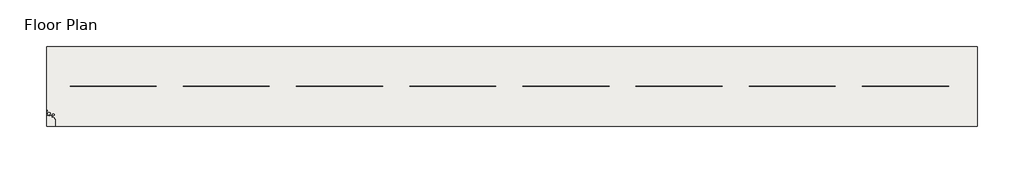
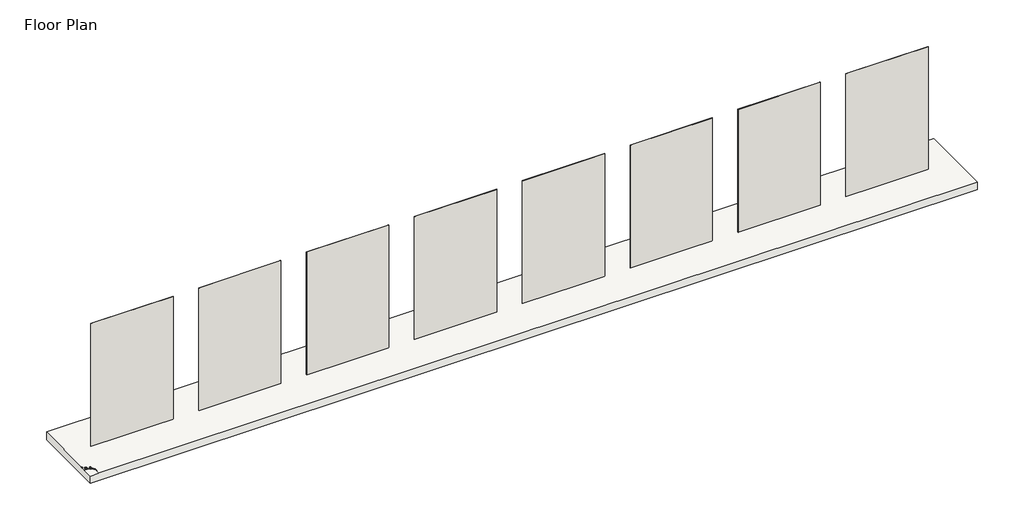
# One storey, incomplete: 8 walls, 1 slab.
"""IFC4 building model written with IfcOpenShell, lengths in millimetres."""

from ifc_helpers import new_model, si_unit, origin, origin_with_axes, place, context, project, spatial, polyline, outline, extrude, faceted_brep, element, save

model = new_model("IFC4")

# Units and contexts
model_context = context("Model", 3, world=origin())
ifc_project = project(units=[si_unit("LENGTHUNIT", "METRE", prefix="MILLI")], contexts=[model_context])

# Site, building, storey
site = spatial("IfcSite", under=ifc_project)
building = spatial("IfcBuilding", under=site)
storey = spatial("IfcBuildingStorey", under=building, Name="Floor Plan", Elevation=0.0)

# Slab
placement = place(None, origin())
element("IfcSlab", 1, ObjectType="Floor 1", at=placement, inside=storey, context=model_context, shape_type="Brep", body=[
    faceted_brep([(133869.564463, -1405.268292, -300.0), (100969.564463, -1405.268292, -300.0), (100969.564463, 1405.268292, -300.0), (133869.564463, 1405.268292, -300.0), (133869.564463, 1405.268292, 0.0), (100969.564463, 1405.268292, 0.0), (100969.564463, -838.8208533, 0.0), (100973.1211266, -836.7674126, 0.0), (101003.8301292, -854.4972635, 0.0), (101003.8301292, -887.6294851, 0.0), (100973.1211266, -905.3593361, 0.0), (100969.564463, -903.3058954, 0.0), (100969.564463, -1029.5470898, 0.0), (100979.1972272, -1035.1085689, 0.0), (101015.3908374, -1014.2121783, 0.0), (101062.4046401, -1041.3556099, 0.0), (101108.4091656, -1014.7948848, 0.0), (101167.6401701, -1048.9919211, 0.0), (101167.6401701, -1095.6301509, 0.0), (101196.9088101, -1078.7318937, 0.0), (101251.5578344, -1110.2835225, 0.0), (101251.5578344, -1149.3943664, 0.0), (101286.1988505, -1169.3943664, 0.0), (101286.1988505, -1405.268292, 0.0), (133869.564463, -1405.268292, 0.0), (101052.4226577, -913.8797767, 0.0), (101098.7748127, -940.6412058, 0.0), (101098.7748127, -995.8128392, 0.0), (101052.4226577, -1022.5742684, 0.0), (101006.0705027, -995.8128392, 0.0), (101006.0705027, -940.6412058, 0.0), (101202.5290945, -971.7658751, 0.0), (101233.3339718, -989.5510793, 0.0), (101233.3339718, -1022.1588741, 0.0), (101202.5290945, -1039.9440783, 0.0), (101171.7242172, -1022.1588741, 0.0), (101171.7242172, -989.5510793, 0.0), (101286.1988505, -1405.268292, -25.0), (100969.564463, -1405.268292, -25.0), (100969.564463, -1029.5470898, -25.0), (100969.564463, -903.3058954, -25.0), (100969.564463, -838.8208533, -25.0), (101286.1988505, -1169.3943664, -25.0), (101251.5578344, -1149.3943664, -25.0), (101251.5578344, -1110.2835225, -25.0), (101196.9088101, -1078.7318937, -25.0), (101167.6401701, -1095.6301509, -25.0), (101167.6401701, -1048.9919211, -25.0), (101108.4091656, -1014.7948848, -25.0), (101062.4046401, -1041.3556099, -25.0), (101015.3908374, -1014.2121783, -25.0), (100979.1972272, -1035.1085689, -25.0), (101098.7748127, -940.6412058, -25.0), (101052.4226577, -913.8797767, -25.0), (101006.0705027, -940.6412058, -25.0), (101006.0705027, -995.8128392, -25.0), (101052.4226577, -1022.5742684, -25.0), (101098.7748127, -995.8128392, -25.0), (101003.8301292, -854.4972635, -25.0), (100973.1211266, -836.7674126, -25.0), (100973.1211266, -905.3593361, -25.0), (101003.8301292, -887.6294851, -25.0), (101233.3339718, -989.5510793, -25.0), (101202.5290945, -971.7658751, -25.0), (101171.7242172, -989.5510793, -25.0), (101171.7242172, -1022.1588741, -25.0), (101202.5290945, -1039.9440783, -25.0), (101233.3339718, -1022.1588741, -25.0)], [[[0, 1, 2, 3]], [[4, 5, 6, 7, 8, 9, 10, 11, 12, 13, 14, 15, 16, 17, 18, 19, 20, 21, 22, 23, 24], [25, 26, 27, 28, 29, 30], [31, 32, 33, 34, 35, 36]], [[1, 0, 24, 23, 37, 38]], [[2, 1, 38, 39, 12, 11, 40, 41, 6, 5]], [[3, 2, 5, 4]], [[42, 43, 44, 45, 46, 47, 48, 49, 50, 51, 39, 38, 37]], [[52, 53, 54, 55, 56, 57]], [[58, 59, 41, 40, 60, 61]], [[62, 63, 64, 65, 66, 67]], [[42, 37, 23, 22]], [[43, 42, 22, 21]], [[44, 43, 21, 20]], [[45, 44, 20, 19]], [[46, 45, 19, 18]], [[47, 46, 18, 17]], [[48, 47, 17, 16]], [[49, 48, 16, 15]], [[50, 49, 15, 14]], [[51, 50, 14, 13]], [[39, 51, 13, 12]], [[53, 52, 26, 25]], [[54, 53, 25, 30]], [[55, 54, 30, 29]], [[56, 55, 29, 28]], [[57, 56, 28, 27]], [[52, 57, 27, 26]], [[59, 58, 8, 7]], [[41, 59, 7, 6]], [[60, 40, 11, 10]], [[61, 60, 10, 9]], [[58, 61, 9, 8]], [[63, 62, 32, 31]], [[64, 63, 31, 36]], [[65, 64, 36, 35]], [[66, 65, 35, 34]], [[67, 66, 34, 33]], [[62, 67, 33, 32]], [[0, 3, 4, 24]]]),
])

# Walls
element("IfcWall", 2, ObjectType="Cemintel Commercial ExpressPanel 9mm x 900mm x 1800mm", at=placement, inside=storey, context=model_context, shape_type="SweptSolid", body=[
    extrude(outline(polyline([(104848.0, -4.5), (101800.0, -4.5), (101800.0, 4.5), (104848.0, 4.5), (104848.0, -4.5)])), origin_with_axes(), (0.0, 0.0, 1.0), 4820.0),
])
element("IfcWall", 3, ObjectType="Cemintel Commercial ExpressPanel 9mm x 900mm x 2400mm", at=placement, inside=storey, context=model_context, shape_type="SweptSolid", body=[
    extrude(outline(polyline([(108848.0, -4.5), (105800.0, -4.5), (105800.0, 4.5), (108848.0, 4.5), (108848.0, -4.5)])), origin_with_axes(), (0.0, 0.0, 1.0), 4820.0),
])
element("IfcWall", 4, ObjectType="Cemintel Commercial ExpressPanel  9mm x 900mm x 3000mm", at=placement, inside=storey, context=model_context, shape_type="SweptSolid", body=[
    extrude(outline(polyline([(112848.0, -4.5), (109800.0, -4.5), (109800.0, 4.5), (112848.0, 4.5), (112848.0, -4.5)])), origin_with_axes(), (0.0, 0.0, 1.0), 4820.0),
])
element("IfcWall", 5, ObjectType="Cemintel Commercial ExpressPanel 9mm x 1200mm x 1800mm", at=placement, inside=storey, context=model_context, shape_type="SweptSolid", body=[
    extrude(outline(polyline([(116848.0, -4.5), (113800.0, -4.5), (113800.0, 4.5), (116848.0, 4.5), (116848.0, -4.5)])), origin_with_axes(), (0.0, 0.0, 1.0), 4820.0),
])
element("IfcWall", 6, ObjectType="Cemintel Commercial ExpressPanel 9mm x 1200mm x 2100mm", at=placement, inside=storey, context=model_context, shape_type="SweptSolid", body=[
    extrude(outline(polyline([(120848.0, -4.5), (117800.0, -4.5), (117800.0, 4.5), (120848.0, 4.5), (120848.0, -4.5)])), origin_with_axes(), (0.0, 0.0, 1.0), 4820.0),
])
element("IfcWall", 7, ObjectType="Cemintel Commercial ExpressPanel 9mm x 1200mm x 2400mm", at=placement, inside=storey, context=model_context, shape_type="SweptSolid", body=[
    extrude(outline(polyline([(124848.0, -4.5), (121800.0, -4.5), (121800.0, 4.5), (124848.0, 4.5), (124848.0, -4.5)])), origin_with_axes(), (0.0, 0.0, 1.0), 4820.0),
])
element("IfcWall", 8, ObjectType="Cemintel Commercial ExpressPanel 9mm x 1200mm x 2700mm", at=placement, inside=storey, context=model_context, shape_type="SweptSolid", body=[
    extrude(outline(polyline([(128848.0, -4.5), (125800.0, -4.5), (125800.0, 4.5), (128848.0, 4.5), (128848.0, -4.5)])), origin_with_axes(), (0.0, 0.0, 1.0), 4820.0),
])
element("IfcWall", 9, ObjectType="Cemintel Commercial ExpressPanel 9mm x 1200mm x 3000mm", at=placement, inside=storey, context=model_context, shape_type="SweptSolid", body=[
    extrude(outline(polyline([(132848.0, -4.5), (129800.0, -4.5), (129800.0, 4.5), (132848.0, 4.5), (132848.0, -4.5)])), origin_with_axes(), (0.0, 0.0, 1.0), 4820.0),
])

save(model, "model.ifc")
